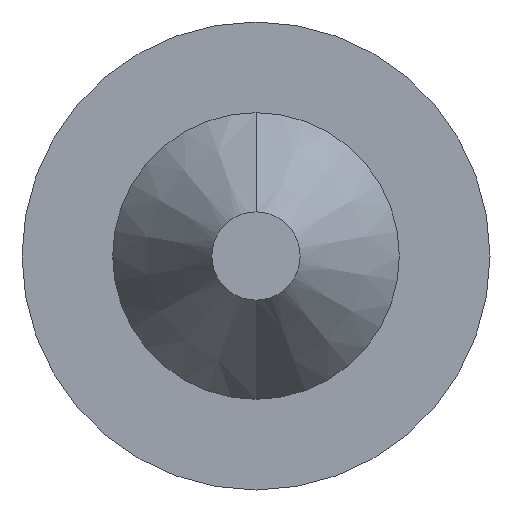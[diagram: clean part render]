
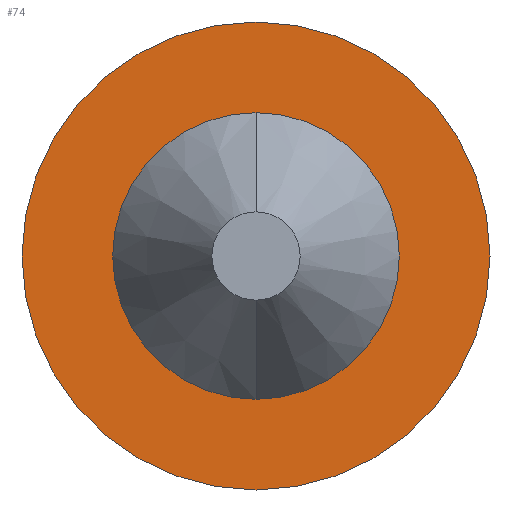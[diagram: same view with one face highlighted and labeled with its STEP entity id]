
A CAD part, front view. The second image highlights one B-rep face of the part: STEP entity #74.
In plain terms, the highlighted planar face has unit normal (0, -1, 0).
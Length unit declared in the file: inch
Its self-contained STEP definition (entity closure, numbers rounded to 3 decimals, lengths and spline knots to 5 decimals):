
#7 = EDGE_CURVE ( 'NONE', #206, #181, #162, .T. ) ;
#9 = EDGE_CURVE ( 'NONE', #408, #312, #176, .T. ) ;
#15 = DIRECTION ( 'NONE',  ( 0., -1., 0. ) ) ;
#23 = ORIENTED_EDGE ( 'NONE', *, *, #7, .T. ) ;
#27 = AXIS2_PLACEMENT_3D ( 'NONE', #142, #15, #299 ) ;
#36 = DIRECTION ( 'NONE',  ( 0., -1., 0. ) ) ;
#68 = CARTESIAN_POINT ( 'NONE',  ( 0., -0.25084, 0. ) ) ;
#74 = ADVANCED_FACE ( 'NONE', ( #404, #114 ), #236, .T. ) ;
#95 = EDGE_CURVE ( 'NONE', #181, #206, #293, .T. ) ;
#103 = CIRCLE ( 'NONE', #336, 0.121 ) ;
#114 = FACE_BOUND ( 'NONE', #119, .T. ) ;
#119 = EDGE_LOOP ( 'NONE', ( #419, #285 ) ) ;
#131 = DIRECTION ( 'NONE',  ( 0., -1., 0. ) ) ;
#136 = DIRECTION ( 'NONE',  ( 0., 0., -1. ) ) ;
#142 = CARTESIAN_POINT ( 'NONE',  ( 0., -0.25084, 0. ) ) ;
#155 = CARTESIAN_POINT ( 'NONE',  ( 0., -0.25084, 0.1975 ) ) ;
#159 = ORIENTED_EDGE ( 'NONE', *, *, #95, .T. ) ;
#162 = CIRCLE ( 'NONE', #305, 0.1975 ) ;
#170 = DIRECTION ( 'NONE',  ( 0., 0., -1. ) ) ;
#176 = CIRCLE ( 'NONE', #300, 0.121 ) ;
#181 = VERTEX_POINT ( 'NONE', #155 ) ;
#182 = CARTESIAN_POINT ( 'NONE',  ( 0., -0.25084, -0.1975 ) ) ;
#196 = EDGE_LOOP ( 'NONE', ( #23, #159 ) ) ;
#206 = VERTEX_POINT ( 'NONE', #182 ) ;
#219 = CARTESIAN_POINT ( 'NONE',  ( 0., -0.25084, -0.121 ) ) ;
#222 = CARTESIAN_POINT ( 'NONE',  ( 0., -0.25084, 0.121 ) ) ;
#233 = CARTESIAN_POINT ( 'NONE',  ( 0., -0.25084, -0.121 ) ) ;
#236 = PLANE ( 'NONE',  #405 ) ;
#250 = CARTESIAN_POINT ( 'NONE',  ( 0., -0.25084, 0. ) ) ;
#282 = DIRECTION ( 'NONE',  ( 0., 0., -1. ) ) ;
#285 = ORIENTED_EDGE ( 'NONE', *, *, #302, .F. ) ;
#293 = CIRCLE ( 'NONE', #27, 0.1975 ) ;
#299 = DIRECTION ( 'NONE',  ( 0., 0., -1. ) ) ;
#300 = AXIS2_PLACEMENT_3D ( 'NONE', #250, #317, #391 ) ;
#302 = EDGE_CURVE ( 'NONE', #312, #408, #103, .T. ) ;
#305 = AXIS2_PLACEMENT_3D ( 'NONE', #420, #131, #282 ) ;
#312 = VERTEX_POINT ( 'NONE', #222 ) ;
#317 = DIRECTION ( 'NONE',  ( 0., -1., 0. ) ) ;
#336 = AXIS2_PLACEMENT_3D ( 'NONE', #68, #36, #136 ) ;
#370 = DIRECTION ( 'NONE',  ( 0., -1., 0. ) ) ;
#391 = DIRECTION ( 'NONE',  ( 0., 0., -1. ) ) ;
#404 = FACE_OUTER_BOUND ( 'NONE', #196, .T. ) ;
#405 = AXIS2_PLACEMENT_3D ( 'NONE', #233, #370, #170 ) ;
#408 = VERTEX_POINT ( 'NONE', #219 ) ;
#419 = ORIENTED_EDGE ( 'NONE', *, *, #9, .F. ) ;
#420 = CARTESIAN_POINT ( 'NONE',  ( 0., -0.25084, 0. ) ) ;
